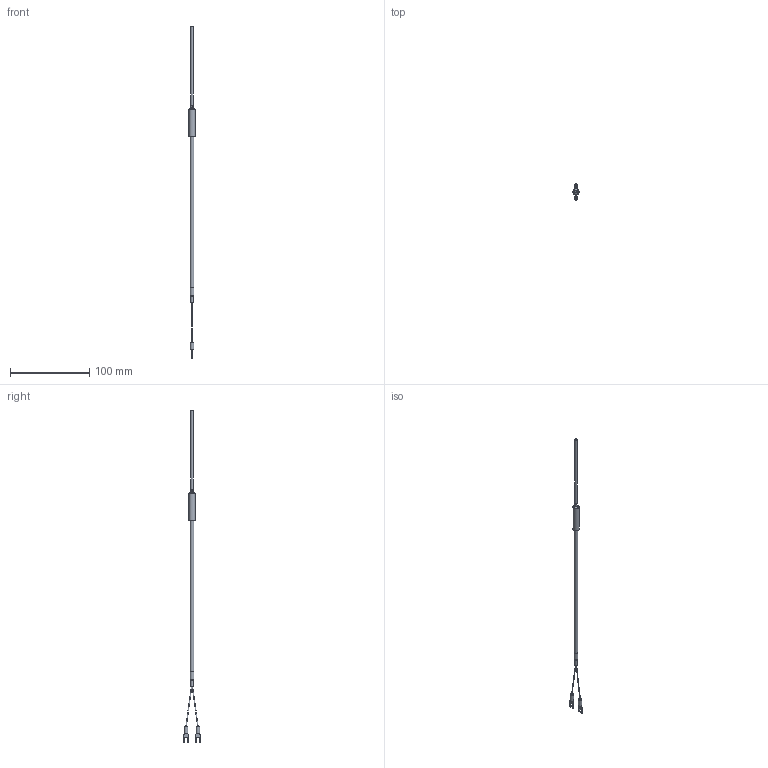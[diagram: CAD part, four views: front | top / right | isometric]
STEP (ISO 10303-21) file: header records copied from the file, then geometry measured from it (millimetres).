
FILE_DESCRIPTION (( 'STEP AP203' ), '1' );
FILE_NAME ('YIT101-2(0).STEP', '2024-11-21T03:54:35', ( '' ), ( '' ), 'SwSTEP 2.0', 'SolidWorks 2021', '' );
FILE_SCHEMA (( 'CONFIG_CONTROL_DESIGN' ));
Length unit declared in the file: millimetre
Products named in the file (1): YIT101-2(0)
Bounding box: 8 x 20.85 x 420 mm (x, y, z)
Volume: 6645.7 mm3; surface area: 5862 mm2
Topology: 1 solids, 1 shells, 67 faces, 163 edges, 106 vertices
Faces by surface type: plane 34, cylinder 21, bspline 8, cone 3, torus 1
Full cylindrical faces by diameter (mm): 3 x1, 3.16 x1, 4.5 x2, 4.8 x1, 5 x1, 8 x1
Entity records: 2125 total; most frequent: CARTESIAN_POINT 562, DIRECTION 300, ORIENTED_EDGE 290, EDGE_CURVE 145, AXIS2_PLACEMENT_3D 107, VERTEX_POINT 101, EDGE_LOOP 88, LINE 86
